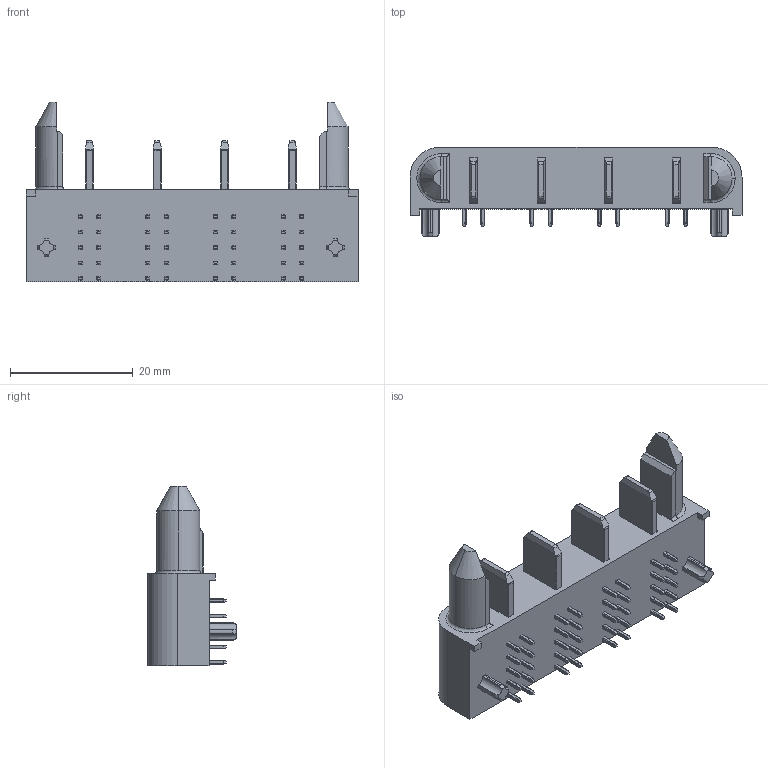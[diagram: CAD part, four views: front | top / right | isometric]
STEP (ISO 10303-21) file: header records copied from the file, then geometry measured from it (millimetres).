
FILE_DESCRIPTION (( 'STEP AP214' ), '1' );
FILE_NAME ('9395-1D07B71DPG2A-A016.STEP', '2026-08-12T09:40:44', ( '' ), ( '' ), 'SwSTEP 2.0', 'SolidWorks 2011', '' );
FILE_SCHEMA (( 'AUTOMOTIVE_DESIGN' ));
Length unit declared in the file: millimetre
Products named in the file (1): 9395-1D07B71DPG2A-A016
Bounding box: 54 x 14.46 x 29.25 mm (x, y, z)
Volume: 8904.3 mm3; surface area: 4307.4 mm2
Topology: 1 solids, 1 shells, 1397 faces, 3589 edges, 2279 vertices
Faces by surface type: plane 712, cylinder 511, bspline 163, cone 11
Entity records: 61337 total; most frequent: CARTESIAN_POINT 13396, ORIENTED_EDGE 7178, DIRECTION 6349, EDGE_CURVE 3589, VERTEX_POINT 2279, LINE 2193, VECTOR 2193, AXIS2_PLACEMENT_3D 2078
